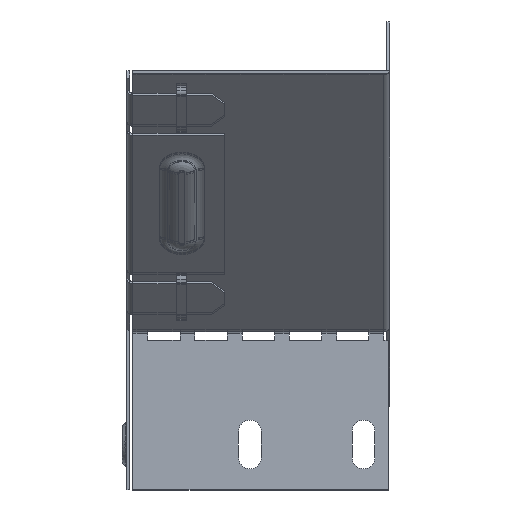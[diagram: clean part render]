
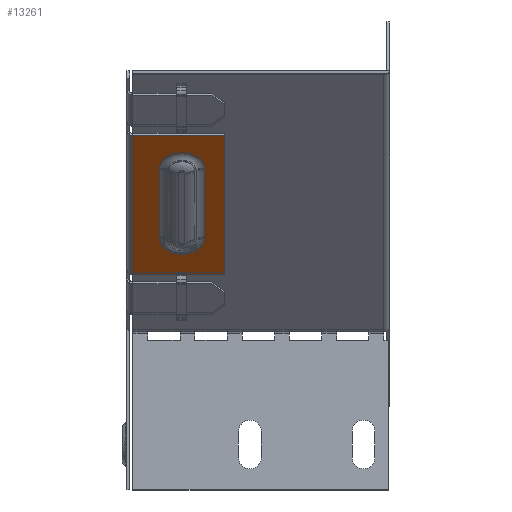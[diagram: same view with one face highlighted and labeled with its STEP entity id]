
A CAD part, left-side view. The second image highlights one B-rep face of the part: STEP entity #13261.
In plain terms, the highlighted planar face has unit normal (-0.707, 0, -0.707).
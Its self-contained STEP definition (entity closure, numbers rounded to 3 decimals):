
#35 = AXIS2_PLACEMENT_3D ( 'NONE', #12932, #19834, #5095 ) ;
#1278 = LINE ( 'NONE', #14482, #8920 ) ;
#1351 = FACE_BOUND ( 'NONE', #1537, .T. ) ;
#1537 = EDGE_LOOP ( 'NONE', ( #16333, #4047, #20553, #20439 ) ) ;
#1761 = VERTEX_POINT ( 'NONE', #7434 ) ;
#2066 = CARTESIAN_POINT ( 'NONE',  ( -65.837, 80., -80.841 ) ) ;
#2318 = CARTESIAN_POINT ( 'NONE',  ( -79.993, 56.183, -66.685 ) ) ;
#3441 = VERTEX_POINT ( 'NONE', #20513 ) ;
#3707 = EDGE_CURVE ( 'NONE', #8343, #17512, #12484, .T. ) ;
#4047 = ORIENTED_EDGE ( 'NONE', *, *, #3707, .T. ) ;
#4232 = EDGE_CURVE ( 'NONE', #16874, #15903, #16566, .T. ) ;
#4354 = DIRECTION ( 'NONE',  ( 0.707, 0., -0.707 ) ) ;
#4498 = DIRECTION ( 'NONE',  ( 0.707, 0., 0.707 ) ) ;
#4987 = VECTOR ( 'NONE', #19231, 1000. ) ;
#5095 = DIRECTION ( 'NONE',  ( 0.5, -0.707, -0.5 ) ) ;
#5218 = LINE ( 'NONE', #9775, #4987 ) ;
#5397 = CARTESIAN_POINT ( 'NONE',  ( -69.022, 50., -77.656 ) ) ;
#5453 = DIRECTION ( 'NONE',  ( 0.707, 0., -0.707 ) ) ;
#5780 = VECTOR ( 'NONE', #7021, 1000. ) ;
#5944 = CARTESIAN_POINT ( 'NONE',  ( -69.022, 50., -77.656 ) ) ;
#6678 = EDGE_CURVE ( 'NONE', #3441, #18157, #18828, .T. ) ;
#7021 = DIRECTION ( 'NONE',  ( 0., -1., 0. ) ) ;
#7242 = EDGE_CURVE ( 'NONE', #18157, #15546, #5218, .T. ) ;
#7326 = ORIENTED_EDGE ( 'NONE', *, *, #7242, .T. ) ;
#7434 = CARTESIAN_POINT ( 'NONE',  ( -111.823, 78.2, -34.855 ) ) ;
#7791 = DIRECTION ( 'NONE',  ( -0.707, 0., 0.707 ) ) ;
#7987 = CARTESIAN_POINT ( 'NONE',  ( -79.993, 63.1, -66.685 ) ) ;
#8343 = VERTEX_POINT ( 'NONE', #2318 ) ;
#8558 = DIRECTION ( 'NONE',  ( 0.707, 0., 0.707 ) ) ;
#8559 = CARTESIAN_POINT ( 'NONE',  ( -101.206, 56.183, -45.472 ) ) ;
#8920 = VECTOR ( 'NONE', #16132, 1000. ) ;
#9319 = CARTESIAN_POINT ( 'NONE',  ( -128.087, 78.2, -18.591 ) ) ;
#9487 = EDGE_CURVE ( 'NONE', #17512, #16874, #1278, .T. ) ;
#9528 = VECTOR ( 'NONE', #13019, 1000. ) ;
#9659 = VECTOR ( 'NONE', #7791, 1000. ) ;
#9775 = CARTESIAN_POINT ( 'NONE',  ( -65.837, 50., -80.841 ) ) ;
#9863 = EDGE_CURVE ( 'NONE', #15903, #8343, #9930, .T. ) ;
#9930 = LINE ( 'NONE', #10810, #21261 ) ;
#10810 = CARTESIAN_POINT ( 'NONE',  ( -79.993, 56.183, -66.685 ) ) ;
#11634 = PLANE ( 'NONE',  #14702 ) ;
#12484 = CIRCLE ( 'NONE', #14970, 6.917 ) ;
#12932 = CARTESIAN_POINT ( 'NONE',  ( -101.206, 63.1, -45.472 ) ) ;
#13019 = DIRECTION ( 'NONE',  ( 0., 1., 0. ) ) ;
#13082 = EDGE_CURVE ( 'NONE', #15546, #1761, #15421, .T. ) ;
#13261 = ADVANCED_FACE ( 'NONE', ( #1351, #13848 ), #11634, .F. ) ;
#13848 = FACE_OUTER_BOUND ( 'NONE', #13954, .T. ) ;
#13888 = CARTESIAN_POINT ( 'NONE',  ( -101.206, 70.017, -45.472 ) ) ;
#13954 = EDGE_LOOP ( 'NONE', ( #16344, #16104, #7326, #17571 ) ) ;
#14482 = CARTESIAN_POINT ( 'NONE',  ( -79.993, 70.017, -66.685 ) ) ;
#14702 = AXIS2_PLACEMENT_3D ( 'NONE', #2066, #8558, #5453 ) ;
#14752 = CARTESIAN_POINT ( 'NONE',  ( -111.823, 50., -34.855 ) ) ;
#14970 = AXIS2_PLACEMENT_3D ( 'NONE', #7987, #4498, #15927 ) ;
#15421 = LINE ( 'NONE', #14752, #9528 ) ;
#15546 = VERTEX_POINT ( 'NONE', #16118 ) ;
#15903 = VERTEX_POINT ( 'NONE', #8559 ) ;
#15927 = DIRECTION ( 'NONE',  ( 0.5, -0.707, -0.5 ) ) ;
#16104 = ORIENTED_EDGE ( 'NONE', *, *, #6678, .T. ) ;
#16118 = CARTESIAN_POINT ( 'NONE',  ( -111.823, 50., -34.855 ) ) ;
#16132 = DIRECTION ( 'NONE',  ( -0.707, 0., 0.707 ) ) ;
#16333 = ORIENTED_EDGE ( 'NONE', *, *, #9863, .T. ) ;
#16344 = ORIENTED_EDGE ( 'NONE', *, *, #18173, .F. ) ;
#16566 = CIRCLE ( 'NONE', #35, 6.917 ) ;
#16874 = VERTEX_POINT ( 'NONE', #13888 ) ;
#17512 = VERTEX_POINT ( 'NONE', #18913 ) ;
#17571 = ORIENTED_EDGE ( 'NONE', *, *, #13082, .T. ) ;
#18157 = VERTEX_POINT ( 'NONE', #5944 ) ;
#18173 = EDGE_CURVE ( 'NONE', #3441, #1761, #20185, .T. ) ;
#18828 = LINE ( 'NONE', #5397, #5780 ) ;
#18913 = CARTESIAN_POINT ( 'NONE',  ( -79.993, 70.017, -66.685 ) ) ;
#19231 = DIRECTION ( 'NONE',  ( -0.707, 0., 0.707 ) ) ;
#19834 = DIRECTION ( 'NONE',  ( 0.707, 0., 0.707 ) ) ;
#20185 = LINE ( 'NONE', #9319, #9659 ) ;
#20439 = ORIENTED_EDGE ( 'NONE', *, *, #4232, .T. ) ;
#20513 = CARTESIAN_POINT ( 'NONE',  ( -69.022, 78.2, -77.656 ) ) ;
#20553 = ORIENTED_EDGE ( 'NONE', *, *, #9487, .T. ) ;
#21261 = VECTOR ( 'NONE', #4354, 1000. ) ;
